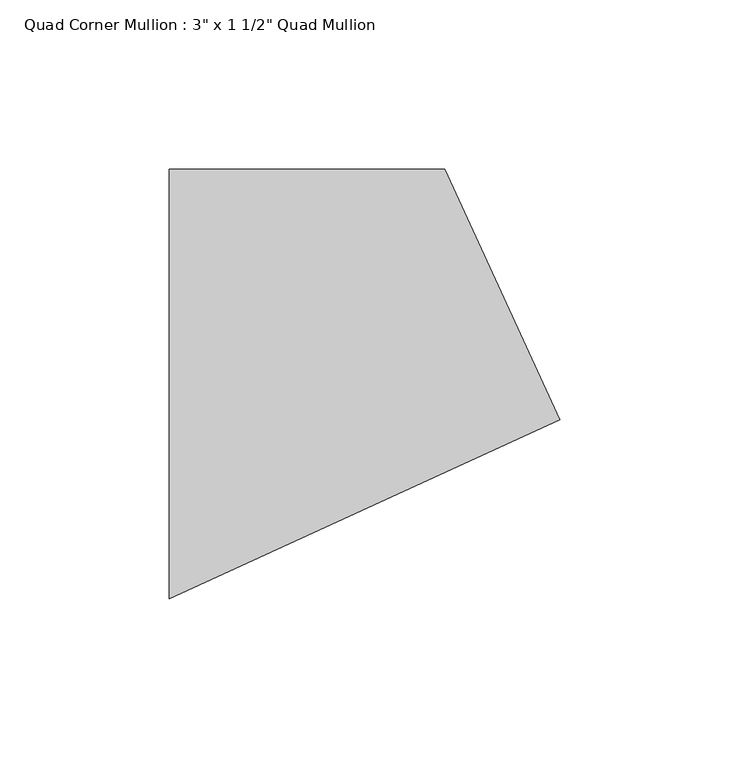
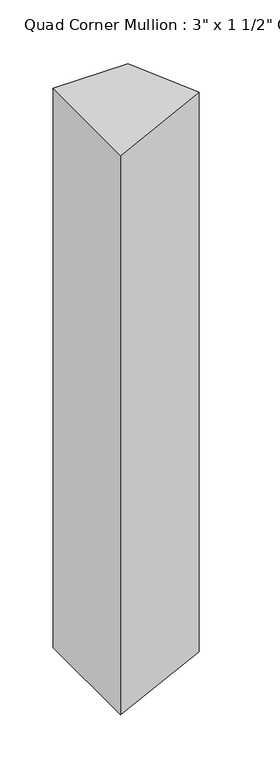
"""IFC4 building model written with IfcOpenShell, lengths in millimetres: member geometry."""

from ifc_helpers import new_model, si_unit, frame, origin, place, context, project, spatial, polyline, outline, extrude, source, transform, mapped, element, save


def member_a62d25e7(model_context):
    return source(origin(), model_context, "Body", "SweptSolid", [
        extrude(outline(polyline([(74.7078921, -10.6493518), (-40.7728811, -63.5), (-40.7728811, 63.5), (40.7728811, 63.5), (74.7078921, -10.6493518)])), frame((0.0, 0.0, -641.35), z_axis=(0.0, 0.0, 1.0), x_axis=(1.0, 0.0, 0.0)), (0.0, 0.0, 1.0), 641.35),
    ])


if __name__ == "__main__":
    model = new_model("IFC4")
    model_context = context("Model", 3, world=origin())
    ifc_project = project(units=[si_unit("LENGTHUNIT", "METRE", prefix="MILLI")], contexts=[model_context])
    site = spatial("IfcSite", under=ifc_project)
    building = spatial("IfcBuilding", under=site)
    placement = place(None, origin())
    member_shape = member_a62d25e7(model_context)
    element("IfcMember", 1, ObjectType="Quad Corner Mullion : 3\" x 1 1/2\" Quad Mullion", at=placement, inside=building, context=model_context, shape_type="MappedRepresentation", body=[
        mapped(member_shape, transform((0.0, 0.0, 0.0), x_axis=(1.0, 0.0, 0.0), y_axis=(0.0, 1.0, 0.0), z_axis=(0.0, 0.0, 1.0))),
    ])
    save(model, "model.ifc")
